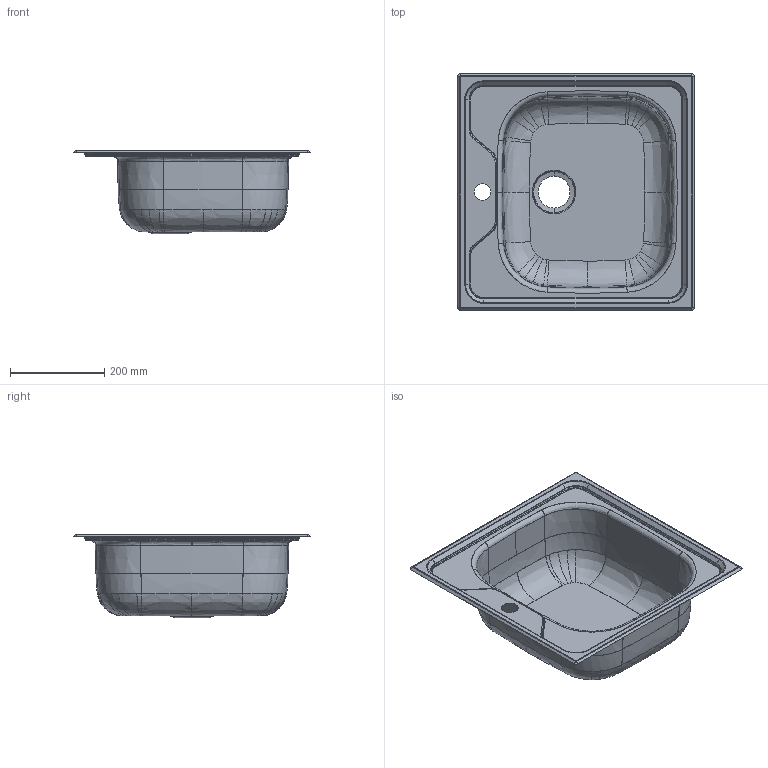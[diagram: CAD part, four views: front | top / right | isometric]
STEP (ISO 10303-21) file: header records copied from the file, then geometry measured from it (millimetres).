
FILE_DESCRIPTION(('CATIA V5 STEP Exchange'),'2;1');
FILE_NAME('C:\Users\ersoy.demir\Desktop\REVİZE KATALOG\İNSET\AS14.stp','2014-08-22T09:10:05+00:00',('none'),('none'),'CATIA Version 5 Release 21 GA (IN-10)','CATIA V5 STEP AP203','none');
FILE_SCHEMA(('CONFIG_CONTROL_DESIGN'));
Length unit declared in the file: millimetre
Products named in the file (1): AS14
Bounding box: 500.71 x 500.71 x 177.5 mm (x, y, z)
Volume: 216065.6 mm3; surface area: 865932.2 mm2
Topology: 1 solids, 1 shells, 379 faces, 1396 edges, 1012 vertices
Faces by surface type: bspline 218, cylinder 56, cone 50, plane 45, torus 10
Entity records: 27216 total; most frequent: CARTESIAN_POINT 18270, ORIENTED_EDGE 2772, EDGE_CURVE 1386, VERTEX_POINT 1012, B_SPLINE_CURVE_WITH_KNOTS 873, DIRECTION 620, EDGE_LOOP 386, ADVANCED_FACE 379
